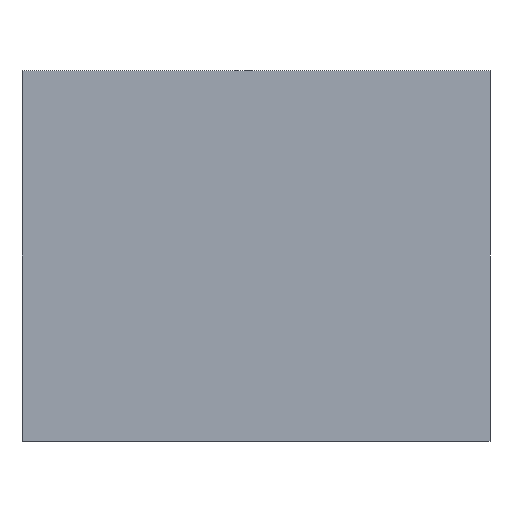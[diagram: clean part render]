
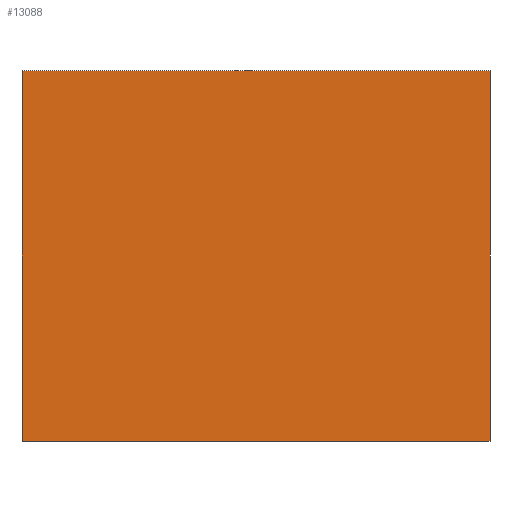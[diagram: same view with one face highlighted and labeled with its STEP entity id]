
A CAD part, front view. The second image highlights one B-rep face of the part: STEP entity #13088.
In plain terms, the highlighted planar face has unit normal (0, -1, 0).
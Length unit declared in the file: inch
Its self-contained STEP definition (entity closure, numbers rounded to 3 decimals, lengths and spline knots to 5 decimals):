
#1970 = VERTEX_POINT ( 'NONE', #2861 ) ;
#2330 = VERTEX_POINT ( 'NONE', #7463 ) ;
#2423 = LINE ( 'NONE', #28208, #28023 ) ;
#2861 = CARTESIAN_POINT ( 'NONE',  ( -12.56133, -6.47962, -10.06135 ) ) ;
#4204 = LINE ( 'NONE', #22572, #9812 ) ;
#4651 = ORIENTED_EDGE ( 'NONE', *, *, #19467, .T. ) ;
#7268 = EDGE_CURVE ( 'NONE', #30682, #1970, #4204, .T. ) ;
#7463 = CARTESIAN_POINT ( 'NONE',  ( 12.56135, -6.47962, -10.06135 ) ) ;
#8783 = CARTESIAN_POINT ( 'NONE',  ( 23.49404, -6.47962, -0.35263 ) ) ;
#9812 = VECTOR ( 'NONE', #12757, 39.37008 ) ;
#11188 = DIRECTION ( 'NONE',  ( 0., 0., -1. ) ) ;
#11352 = DIRECTION ( 'NONE',  ( 0., 0., 1. ) ) ;
#12175 = CARTESIAN_POINT ( 'NONE',  ( -12.56137, -6.47962, 9.8376 ) ) ;
#12757 = DIRECTION ( 'NONE',  ( 0., 0., -1. ) ) ;
#12866 = LINE ( 'NONE', #25474, #24936 ) ;
#13088 = ADVANCED_FACE ( 'NONE', ( #24909 ), #23224, .F. ) ;
#13392 = CARTESIAN_POINT ( 'NONE',  ( -12.56137, -6.47962, 9.8376 ) ) ;
#15260 = EDGE_LOOP ( 'NONE', ( #30862, #28809, #4651, #27203 ) ) ;
#16036 = EDGE_CURVE ( 'NONE', #26523, #30682, #28243, .T. ) ;
#18582 = AXIS2_PLACEMENT_3D ( 'NONE', #8783, #25627, #11188 ) ;
#19467 = EDGE_CURVE ( 'NONE', #2330, #26523, #2423, .T. ) ;
#19962 = CARTESIAN_POINT ( 'NONE',  ( 12.56135, -6.47962, 9.8376 ) ) ;
#22229 = EDGE_CURVE ( 'NONE', #1970, #2330, #12866, .T. ) ;
#22572 = CARTESIAN_POINT ( 'NONE',  ( -12.56133, -6.47962, -10.06135 ) ) ;
#23224 = PLANE ( 'NONE',  #18582 ) ;
#24909 = FACE_OUTER_BOUND ( 'NONE', #15260, .T. ) ;
#24936 = VECTOR ( 'NONE', #30293, 39.37008 ) ;
#25474 = CARTESIAN_POINT ( 'NONE',  ( -12.56133, -6.47962, -10.06135 ) ) ;
#25627 = DIRECTION ( 'NONE',  ( 0., 1., 0. ) ) ;
#26523 = VERTEX_POINT ( 'NONE', #19962 ) ;
#27203 = ORIENTED_EDGE ( 'NONE', *, *, #16036, .T. ) ;
#27480 = VECTOR ( 'NONE', #28926, 39.37008 ) ;
#28023 = VECTOR ( 'NONE', #11352, 39.37008 ) ;
#28208 = CARTESIAN_POINT ( 'NONE',  ( 12.56135, -6.47962, -10.06135 ) ) ;
#28243 = LINE ( 'NONE', #12175, #27480 ) ;
#28809 = ORIENTED_EDGE ( 'NONE', *, *, #22229, .T. ) ;
#28926 = DIRECTION ( 'NONE',  ( -1., 0., 0. ) ) ;
#30293 = DIRECTION ( 'NONE',  ( 1., 0., 0. ) ) ;
#30682 = VERTEX_POINT ( 'NONE', #13392 ) ;
#30862 = ORIENTED_EDGE ( 'NONE', *, *, #7268, .T. ) ;
